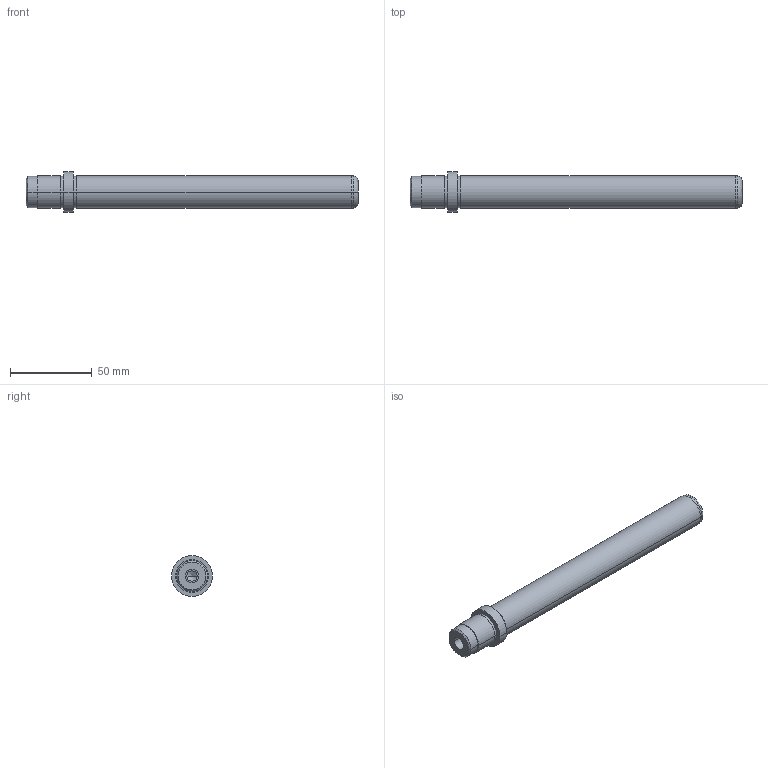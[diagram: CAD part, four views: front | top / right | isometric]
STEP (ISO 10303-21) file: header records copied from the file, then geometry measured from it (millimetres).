
FILE_DESCRIPTION( ( 'STEP AP203' ), '1' );
FILE_NAME( 'D:/Delta 3 D/D00/D00 - 20x180x23.step', '2003-01-02T06:42:27', ( ' ' ), ( ' ' ), 'XStep 1.0', ' ', ' ' );
FILE_SCHEMA( ( 'CONFIG_CONTROL_DESIGN' ) );
Length unit declared in the file: metre
Products named in the file (1): 1
Bounding box: 203 x 25 x 25 mm (x, y, z)
Volume: 62156.9 mm3; surface area: 14963.1 mm2
Topology: 1 solids, 1 shells, 39 faces, 78 edges, 48 vertices
Faces by surface type: revolution 28, bspline 11
Entity records: 1137 total; most frequent: CARTESIAN_POINT 277, DIRECTION 154, ORIENTED_EDGE 152, EDGE_CURVE 76, AXIS2_PLACEMENT_3D 49, EDGE_LOOP 48, VERTEX_POINT 48, CIRCLE 48
